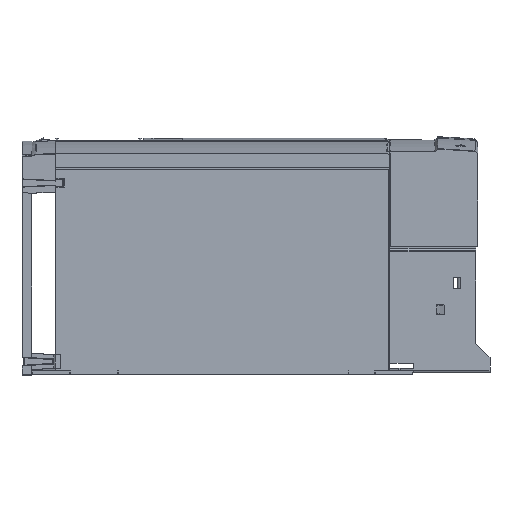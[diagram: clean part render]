
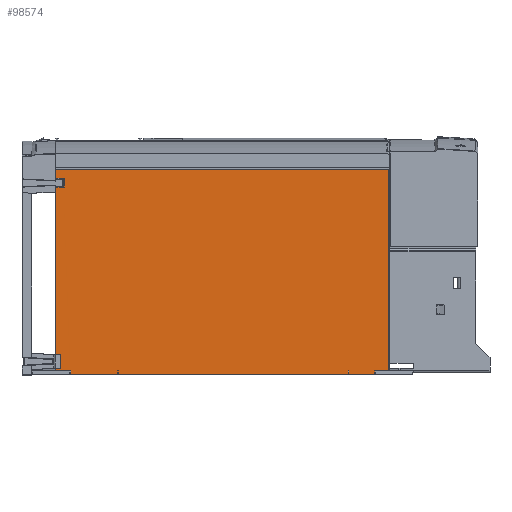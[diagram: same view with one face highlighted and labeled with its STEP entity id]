
A CAD part, left-side view. The second image highlights one B-rep face of the part: STEP entity #98574.
In plain terms, the highlighted planar face has unit normal (-1, 0, 0).
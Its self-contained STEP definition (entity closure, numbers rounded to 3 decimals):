
#25851=CARTESIAN_POINT('',(-82.5,-174.5,3.768));
#40246=DIRECTION('',(0.,1.,0.));
#40247=VECTOR('',#40246,8.146);
#40248=CARTESIAN_POINT('',(-82.5,166.604,205.45));
#40249=LINE('',#40248,#40247);
#40253=DIRECTION('',(0.,0.,1.));
#40254=VECTOR('',#40253,9.2);
#40255=CARTESIAN_POINT('',(-82.5,174.75,205.45));
#40256=LINE('',#40255,#40254);
#40260=DIRECTION('',(0.,-1.,0.));
#40261=VECTOR('',#40260,349.25);
#40262=CARTESIAN_POINT('',(-82.5,174.75,214.65));
#40263=LINE('',#40262,#40261);
#40267=DIRECTION('',(0.,0.,-1.));
#40268=VECTOR('',#40267,210.882);
#40269=CARTESIAN_POINT('',(-82.5,-174.5,214.65));
#40270=LINE('',#40269,#40268);
#40274=DIRECTION('',(0.,1.,0.));
#40275=VECTOR('',#40274,14.95);
#40276=CARTESIAN_POINT('',(-82.5,-174.5,3.768));
#40277=LINE('',#40276,#40275);
#40281=DIRECTION('',(0.,1.,0.));
#40282=VECTOR('',#40281,14.729);
#40283=CARTESIAN_POINT('',(-82.49,160.07,3.769));
#40284=LINE('',#40283,#40282);
#40288=DIRECTION('',(0.,0.,1.));
#40289=VECTOR('',#40288,192.181);
#40290=CARTESIAN_POINT('',(-82.49,174.799,
3.769));
#40291=LINE('',#40290,#40289);
#40295=DIRECTION('',(0.,0.,-1.));
#40296=VECTOR('',#40295,8.5);
#40297=CARTESIAN_POINT('',(-82.5,165.896,
204.95));
#40298=LINE('',#40297,#40296);
#40418=DIRECTION('',(0.,1.,0.));
#40419=VECTOR('',#40418,8.146);
#40420=CARTESIAN_POINT('',(-82.5,166.604,195.95));
#40421=LINE('',#40420,#40419);
#40456=CARTESIAN_POINT('',(-82.5,165.896,
196.45));
#40457=CARTESIAN_POINT('',(-82.5,165.906,
196.348));
#40458=CARTESIAN_POINT('',(-82.5,165.973,
196.174));
#40459=CARTESIAN_POINT('',(-82.5,166.246,
195.995));
#40460=CARTESIAN_POINT('',(-82.5,166.473,
195.953));
#40461=CARTESIAN_POINT('',(-82.5,166.604,195.95));
#40876=CARTESIAN_POINT('',(-82.5,166.604,205.45));
#40877=CARTESIAN_POINT('',(-82.5,166.474,
205.447));
#40878=CARTESIAN_POINT('',(-82.5,166.247,
205.407));
#40879=CARTESIAN_POINT('',(-82.5,165.969,
205.221));
#40880=CARTESIAN_POINT('',(-82.5,165.905,
205.05));
#40881=CARTESIAN_POINT('',(-82.5,165.896,
204.95));
#41107=DIRECTION('',(0.,0.,1.));
#41108=VECTOR('',#41107,3.768);
#41109=CARTESIAN_POINT('',(-82.5,-159.55,0.));
#41110=LINE('',#41109,#41108);
#41376=CARTESIAN_POINT('',(-82.49,160.07,3.769));
#41377=CARTESIAN_POINT('',(-82.49,159.765,
3.769));
#41378=CARTESIAN_POINT('',(-82.5,159.461,
3.768));
#41379=CARTESIAN_POINT('',(-82.5,159.156,
3.768));
#41412=DIRECTION('',(0.,0.,-1.));
#41413=VECTOR('',#41412,3.768);
#41414=CARTESIAN_POINT('',(-82.5,159.156,
3.768));
#41415=LINE('',#41414,#41413);
#41448=DIRECTION('',(0.,-1.,0.));
#41449=VECTOR('',#41448,49.567);
#41450=CARTESIAN_POINT('',(-82.5,159.156,0.));
#41451=LINE('',#41450,#41449);
#41490=DIRECTION('',(0.,0.,1.));
#41491=VECTOR('',#41490,3.768);
#41492=CARTESIAN_POINT('',(-82.5,109.589,0.));
#41493=LINE('',#41492,#41491);
#41511=DIRECTION('',(0.,-1.,0.));
#41512=VECTOR('',#41511,0.5);
#41513=CARTESIAN_POINT('',(-82.5,109.589,3.768));
#41514=LINE('',#41513,#41512);
#41518=DIRECTION('',(0.,-1.,0.));
#41519=VECTOR('',#41518,0.5);
#41520=CARTESIAN_POINT('',(-82.5,-132.089,3.768));
#41521=LINE('',#41520,#41519);
#41567=DIRECTION('',(0.,0.,-1.));
#41568=VECTOR('',#41567,3.775);
#41569=CARTESIAN_POINT('',(-82.5,109.089,3.768));
#41570=LINE('',#41569,#41568);
#41574=DIRECTION('',(0.,-1.,0.));
#41575=VECTOR('',#41574,241.178);
#41576=CARTESIAN_POINT('',(-82.5,109.089,-0.007));
#41577=LINE('',#41576,#41575);
#41602=DIRECTION('',(0.,0.,1.));
#41603=VECTOR('',#41602,3.775);
#41604=CARTESIAN_POINT('',(-82.5,-132.089,-0.007));
#41605=LINE('',#41604,#41603);
#41644=DIRECTION('',(0.,0.,-1.));
#41645=VECTOR('',#41644,3.768);
#41646=CARTESIAN_POINT('',(-82.5,-132.589,3.768));
#41647=LINE('',#41646,#41645);
#41665=DIRECTION('',(0.,-1.,0.));
#41666=VECTOR('',#41665,26.961);
#41667=CARTESIAN_POINT('',(-82.5,-132.589,0.));
#41668=LINE('',#41667,#41666);
#74722=CARTESIAN_POINT('',(-82.49,174.799,
3.769));
#74723=VERTEX_POINT('',#74722);
#75806=CARTESIAN_POINT('',(-82.5,-174.5,214.65));
#75807=VERTEX_POINT('',#75806);
#75810=VERTEX_POINT('',#25851);
#77617=CARTESIAN_POINT('',(-82.5,174.75,195.95));
#77618=VERTEX_POINT('',#77617);
#77661=CARTESIAN_POINT('',(-82.5,166.604,205.45));
#77662=CARTESIAN_POINT('',(-82.5,174.75,205.45));
#77663=VERTEX_POINT('',#77661);
#77664=VERTEX_POINT('',#77662);
#77671=CARTESIAN_POINT('',(-82.5,174.75,214.65));
#77672=VERTEX_POINT('',#77671);
#77681=CARTESIAN_POINT('',(-82.5,-159.55,3.768));
#77682=VERTEX_POINT('',#77681);
#77683=CARTESIAN_POINT('',(-82.5,-132.589,3.768));
#77684=CARTESIAN_POINT('',(-82.5,-132.589,0.));
#77685=VERTEX_POINT('',#77683);
#77686=VERTEX_POINT('',#77684);
#77687=CARTESIAN_POINT('',(-82.5,-132.089,3.768));
#77688=VERTEX_POINT('',#77687);
#77689=CARTESIAN_POINT('',(-82.5,-132.089,-0.007));
#77690=VERTEX_POINT('',#77689);
#77691=CARTESIAN_POINT('',(-82.5,109.089,-0.007));
#77692=VERTEX_POINT('',#77691);
#77693=CARTESIAN_POINT('',(-82.5,109.089,3.768));
#77694=VERTEX_POINT('',#77693);
#77695=CARTESIAN_POINT('',(-82.5,109.589,3.768));
#77696=VERTEX_POINT('',#77695);
#77697=CARTESIAN_POINT('',(-82.5,159.156,
3.768));
#77698=CARTESIAN_POINT('',(-82.5,159.156,0.));
#77699=VERTEX_POINT('',#77697);
#77700=VERTEX_POINT('',#77698);
#77701=VERTEX_POINT('',#41376);
#77702=VERTEX_POINT('',#40456);
#77703=VERTEX_POINT('',#40461);
#77708=CARTESIAN_POINT('',(-82.5,165.896,
204.95));
#77709=VERTEX_POINT('',#77708);
#77739=CARTESIAN_POINT('',(-82.5,-159.55,0.));
#77740=VERTEX_POINT('',#77739);
#77801=CARTESIAN_POINT('',(-82.5,109.589,0.));
#77802=VERTEX_POINT('',#77801);
#98524=CARTESIAN_POINT('',(-82.5,0.125,107.322));
#98525=DIRECTION('',(1.,0.,0.));
#98526=DIRECTION('',(0.,0.,1.));
#98527=AXIS2_PLACEMENT_3D('',#98524,#98525,#98526);
#98528=PLANE('',#98527);
#98530=ORIENTED_EDGE('',*,*,#98529,.F.);
#98532=ORIENTED_EDGE('',*,*,#98531,.F.);
#98534=ORIENTED_EDGE('',*,*,#98533,.T.);
#98536=ORIENTED_EDGE('',*,*,#98535,.T.);
#98538=ORIENTED_EDGE('',*,*,#98537,.T.);
#98539=ORIENTED_EDGE('',*,*,#84499,.T.);
#98540=ORIENTED_EDGE('',*,*,#84523,.T.);
#98542=ORIENTED_EDGE('',*,*,#98541,.F.);
#98544=ORIENTED_EDGE('',*,*,#98543,.F.);
#98546=ORIENTED_EDGE('',*,*,#98545,.F.);
#98548=ORIENTED_EDGE('',*,*,#98547,.F.);
#98550=ORIENTED_EDGE('',*,*,#98549,.F.);
#98552=ORIENTED_EDGE('',*,*,#98551,.F.);
#98554=ORIENTED_EDGE('',*,*,#98553,.F.);
#98556=ORIENTED_EDGE('',*,*,#98555,.F.);
#98558=ORIENTED_EDGE('',*,*,#98557,.F.);
#98560=ORIENTED_EDGE('',*,*,#98559,.F.);
#98562=ORIENTED_EDGE('',*,*,#98561,.F.);
#98564=ORIENTED_EDGE('',*,*,#98563,.F.);
#98565=ORIENTED_EDGE('',*,*,#98515,.T.);
#98567=ORIENTED_EDGE('',*,*,#98566,.T.);
#98569=ORIENTED_EDGE('',*,*,#98568,.F.);
#98571=ORIENTED_EDGE('',*,*,#98570,.F.);
#98572=EDGE_LOOP('',(#98530,#98532,#98534,#98536,#98538,#98539,#98540,#98542,
#98544,#98546,#98548,#98550,#98552,#98554,#98556,#98558,#98560,#98562,#98564,
#98565,#98567,#98569,#98571));
#98573=FACE_OUTER_BOUND('',#98572,.F.);
#98574=ADVANCED_FACE('',(#98573),#98528,.F.);
#40462=B_SPLINE_CURVE_WITH_KNOTS('',3,(#40456,#40457,#40458,#40459,#40460,
#40461),.UNSPECIFIED.,.F.,.F.,(4,1,1,4),(0.,0.333,
0.667,1.),.UNSPECIFIED.);
#40882=B_SPLINE_CURVE_WITH_KNOTS('',3,(#40876,#40877,#40878,#40879,#40880,
#40881),.UNSPECIFIED.,.F.,.F.,(4,1,1,4),(0.,0.333,
0.667,1.),.UNSPECIFIED.);
#41380=B_SPLINE_CURVE_WITH_KNOTS('',3,(#41376,#41377,#41378,#41379),
.UNSPECIFIED.,.F.,.F.,(4,4),(0.,1.),.UNSPECIFIED.);
#84499=EDGE_CURVE('',#75807,#75810,#40270,.T.);
#84523=EDGE_CURVE('',#75810,#77682,#40277,.T.);
#98515=EDGE_CURVE('',#77701,#74723,#40284,.T.);
#98529=EDGE_CURVE('',#77709,#77702,#40298,.T.);
#98531=EDGE_CURVE('',#77663,#77709,#40882,.T.);
#98533=EDGE_CURVE('',#77663,#77664,#40249,.T.);
#98535=EDGE_CURVE('',#77664,#77672,#40256,.T.);
#98537=EDGE_CURVE('',#77672,#75807,#40263,.T.);
#98541=EDGE_CURVE('',#77740,#77682,#41110,.T.);
#98543=EDGE_CURVE('',#77686,#77740,#41668,.T.);
#98545=EDGE_CURVE('',#77685,#77686,#41647,.T.);
#98547=EDGE_CURVE('',#77688,#77685,#41521,.T.);
#98549=EDGE_CURVE('',#77690,#77688,#41605,.T.);
#98551=EDGE_CURVE('',#77692,#77690,#41577,.T.);
#98553=EDGE_CURVE('',#77694,#77692,#41570,.T.);
#98555=EDGE_CURVE('',#77696,#77694,#41514,.T.);
#98557=EDGE_CURVE('',#77802,#77696,#41493,.T.);
#98559=EDGE_CURVE('',#77700,#77802,#41451,.T.);
#98561=EDGE_CURVE('',#77699,#77700,#41415,.T.);
#98563=EDGE_CURVE('',#77701,#77699,#41380,.T.);
#98566=EDGE_CURVE('',#74723,#77618,#40291,.T.);
#98568=EDGE_CURVE('',#77703,#77618,#40421,.T.);
#98570=EDGE_CURVE('',#77702,#77703,#40462,.T.);
